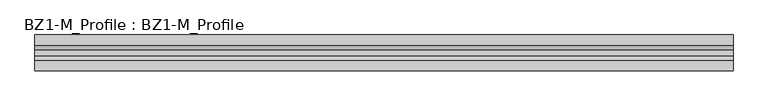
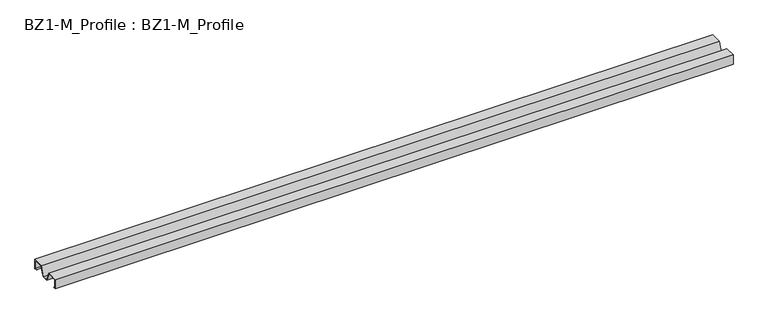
"""IFC4 building model written with IfcOpenShell, lengths in millimetres: beam geometry, BZ1-M_Profile : BZ1-M_Profile."""

import ifcopenshell
import ifcopenshell.guid

model = None  # the IFC model being written
_history = None  # IfcOwnerHistory: only IFC2X3 demands one
_inside = {}  # id of a spatial element -> (the spatial element, [elements in it])
_under = {}  # id of a project, library or spatial element -> (it, [spatial elements below it])
_declared = {}  # id of a project -> (the project, [libraries it declares])
_typed = {}  # id of a type object -> (the type object, [elements of that type])
_made_of = {}  # id of a material, layer set ... -> (it, [elements and type objects made of it])


def new_model(schema):
    """Start an empty IFC model of exactly this schema.

    Asked for "IFC4X3", IfcOpenShell would pick the latest addendum, in which some entities
    have other attributes; the version numbers below select the first issue.
    IFC2X3 requires an IfcOwnerHistory on every rooted entity: one is made here for all.
    """
    global model, _history
    if schema == "IFC4X3":
        model = ifcopenshell.file(schema_version=(4, 3, 0, 0))
    else:
        model = ifcopenshell.file(schema=schema)
    _inside.clear()
    _under.clear()
    _declared.clear()
    _typed.clear()
    _made_of.clear()
    _history = None
    if model.schema == "IFC2X3":
        org = make("IfcOrganization", Name="unknown")
        user = make(
            "IfcPersonAndOrganization",
            ThePerson=make("IfcPerson", FamilyName="unknown"),
            TheOrganization=org,
        )
        app = make(
            "IfcApplication",
            ApplicationDeveloper=org,
            Version="unknown",
            ApplicationFullName="unknown",
            ApplicationIdentifier="unknown",
        )
        _history = make(
            "IfcOwnerHistory",
            OwningUser=user,
            OwningApplication=app,
            ChangeAction="ADDED",
            CreationDate=0,
        )
    return model


def make(cls, **values):
    """One entity of the class cls with the attributes given. An attribute that is None is left unset."""
    return model.create_entity(
        cls, **{name: value for name, value in values.items() if value is not None}
    )


def rooted(cls, **values):
    """An entity with a GlobalId (a new one), such as an element, a storey or a relation."""
    return make(cls, GlobalId=ifcopenshell.guid.new(), OwnerHistory=_history, **values)


def si_unit(unit_type, name, prefix=None):
    """IfcSIUnit, for example si_unit("LENGTHUNIT", "METRE", prefix="MILLI")."""
    return make("IfcSIUnit", UnitType=unit_type, Prefix=prefix, Name=name)


def assignment(units):
    """IfcUnitAssignment: the units of a project."""
    return None if units is None else make("IfcUnitAssignment", Units=units)


def point(xyz):
    """IfcCartesianPoint."""
    return None if xyz is None else make("IfcCartesianPoint", Coordinates=xyz)


def direction(xyz):
    """IfcDirection."""
    return None if xyz is None else make("IfcDirection", DirectionRatios=xyz)


def frame(location, z_axis=None, x_axis=None):
    """IfcAxis2Placement3D, a coordinate frame: its origin and axes. An axis left out is left unset."""
    return make(
        "IfcAxis2Placement3D",
        Location=point(location),
        Axis=direction(z_axis),
        RefDirection=direction(x_axis),
    )


def origin():
    """The frame at (0, 0, 0) with its axes left unset."""
    return frame((0.0, 0.0, 0.0))


def place(relative_to, where):
    """IfcLocalPlacement: puts the frame where relative to a parent placement (None: the world)."""
    return make(
        "IfcLocalPlacement", PlacementRelTo=relative_to, RelativePlacement=where
    )


def context(
    kind, dimensions, precision=None, world=None, true_north=None, identifier=None
):
    """IfcGeometricRepresentationContext, for example the 3D "Model" context."""
    return make(
        "IfcGeometricRepresentationContext",
        ContextIdentifier=identifier,
        ContextType=kind,
        CoordinateSpaceDimension=dimensions,
        Precision=precision,
        WorldCoordinateSystem=world,
        TrueNorth=true_north,
    )


def project(units=None, contexts=None):
    """IfcProject with its units and contexts."""
    return rooted(
        "IfcProject",
        Name="project",
        RepresentationContexts=contexts,
        UnitsInContext=assignment(units),
    )


def spatial(cls, under=None, at=None, **own):
    """A site, building, storey or space (cls), placed at a placement, below another one or the project."""
    s = rooted(cls, ObjectPlacement=at, **own)
    if under is not None:
        _under.setdefault(under.id(), (under, []))[1].append(s)
    return s


def polyline(points):
    """IfcPolyline through the points."""
    return make("IfcPolyline", Points=[point(p) for p in points])


def outline(outer, holes=None, kind="AREA"):
    """IfcArbitraryClosedProfileDef: a profile drawn as a closed curve; with holes, ...WithVoids."""
    if holes is None:
        return make("IfcArbitraryClosedProfileDef", ProfileType=kind, OuterCurve=outer)
    return make(
        "IfcArbitraryProfileDefWithVoids",
        ProfileType=kind,
        OuterCurve=outer,
        InnerCurves=holes,
    )


def extrude(swept, where, along, depth):
    """IfcExtrudedAreaSolid: the profile swept, set in the frame where, extruded along a direction by depth."""
    return make(
        "IfcExtrudedAreaSolid",
        SweptArea=swept,
        Position=where,
        ExtrudedDirection=direction(along),
        Depth=depth,
    )


def shape(context_of_items, identifier, shape_type, items):
    """IfcShapeRepresentation: the items that make up one representation, for example the "Body"."""
    return make(
        "IfcShapeRepresentation",
        ContextOfItems=context_of_items,
        RepresentationIdentifier=identifier,
        RepresentationType=shape_type,
        Items=items,
    )


def source(mapping_origin, context_of_items, identifier, shape_type, items):
    """IfcRepresentationMap: a shape defined once, which mapped items show again and again."""
    return make(
        "IfcRepresentationMap",
        MappingOrigin=mapping_origin,
        MappedRepresentation=shape(context_of_items, identifier, shape_type, items),
    )


def transform(
    local_origin,
    x_axis=None,
    y_axis=None,
    z_axis=None,
    scale=None,
    scale2=None,
    scale3=None,
    uniform=True,
):
    """IfcCartesianTransformationOperator3D, or its non-uniform kind. x_axis, y_axis, z_axis: its Axis1, 2, 3."""
    if uniform:
        return make(
            "IfcCartesianTransformationOperator3D",
            Axis1=direction(x_axis),
            Axis2=direction(y_axis),
            LocalOrigin=point(local_origin),
            Scale=scale,
            Axis3=direction(z_axis),
        )
    return make(
        "IfcCartesianTransformationOperator3DnonUniform",
        Axis1=direction(x_axis),
        Axis2=direction(y_axis),
        LocalOrigin=point(local_origin),
        Scale=scale,
        Axis3=direction(z_axis),
        Scale2=scale2,
        Scale3=scale3,
    )


def mapped(mapping_source, mapping_target):
    """IfcMappedItem: shows the shape of a source again, moved by a transform."""
    return make(
        "IfcMappedItem", MappingSource=mapping_source, MappingTarget=mapping_target
    )


def made_of(thing, what):
    """Note that an element or type object is made of a material, layer set ...; save() writes the relation."""
    if what is not None:
        _made_of.setdefault(what.id(), (what, []))[1].append(thing)
    return thing


def element(
    cls,
    number,
    at=None,
    inside=None,
    cuts=None,
    type_object=None,
    material=None,
    context=None,
    identifier="Body",
    shape_type=None,
    held_by="IfcProductDefinitionShape",
    body=None,
    shapes=None,
    **own,
):
    """One element of the class cls, such as IfcWall. Its Tag is "e" and its number.

    at: its placement. inside: the storey or other place that contains it. cuts: it is an
    opening in that element (IfcRelVoidsElement). A single representation is given by context,
    identifier, shape_type and body (its items); several are given by shapes. held_by: the class
    of the entity that holds the representations. save() writes the other relations.
    """
    e = rooted(cls, Tag="e%d" % number, ObjectPlacement=at, **own)
    if body is not None:
        shapes = [shape(context, identifier, shape_type, body)]
    if shapes is not None:
        e.Representation = make(held_by, Representations=shapes)
    if inside is not None:
        _inside.setdefault(inside.id(), (inside, []))[1].append(e)
    if cuts is not None:
        rooted(
            "IfcRelVoidsElement", RelatingBuildingElement=cuts, RelatedOpeningElement=e
        )
    if type_object is not None:
        _typed.setdefault(type_object.id(), (type_object, []))[1].append(e)
    return made_of(e, material)


def aggregate(whole, parts):
    """IfcRelAggregates: a whole, such as a stair, and the parts it consists of."""
    return rooted("IfcRelAggregates", RelatingObject=whole, RelatedObjects=parts)


def save(model, path):
    """Write the relations noted so far, then the file.

    IfcRelAggregates (storeys below a building ...), IfcRelContainedInSpatialStructure (elements
    in a storey), IfcRelDefinesByType, IfcRelAssociatesMaterial and IfcRelDeclares: one each for
    every whole, place, type object, material and project.
    """
    for whole, parts in _under.values():
        aggregate(whole, parts)
    for where, things in _inside.values():
        rooted(
            "IfcRelContainedInSpatialStructure",
            RelatedElements=things,
            RelatingStructure=where,
        )
    for kind, things in _typed.values():
        rooted("IfcRelDefinesByType", RelatedObjects=things, RelatingType=kind)
    for what, things in _made_of.values():
        rooted("IfcRelAssociatesMaterial", RelatedObjects=things, RelatingMaterial=what)
    for by, libraries in _declared.values():
        rooted("IfcRelDeclares", RelatingContext=by, RelatedDefinitions=libraries)
    model.write(path)


def bz1_m_profile_bz1_m_profile_67f64d1a(model_context):
    return source(origin(), model_context, "Body", "SweptSolid", [
        extrude(outline(polyline([(45.0, 25.0), (45.0, 0.0), (39.0, 0.0), (39.0, 1.0), (44.0, 1.0), (44.0, 24.0), (18.3051526, 24.0), (8.117757, 0.0), (-8.117757, 0.0), (-18.3051526, 24.0), (-44.0, 24.0), (-44.0, 1.0), (-39.0, 1.0), (-39.0, 0.0), (-45.0, 0.0), (-45.0, 25.0), (-17.643267, 25.0), (-7.4558714, 1.0), (7.4558714, 1.0), (17.643267, 25.0), (45.0, 25.0)])), frame((-871.0, 0.0, 0.0), z_axis=(1.0, 0.0, 0.0), x_axis=(0.0, 1.0, 0.0)), (0.0, 0.0, 1.0), 1742.0),
    ])


if __name__ == "__main__":
    model = new_model("IFC4")
    model_context = context("Model", 3, world=origin())
    ifc_project = project(units=[si_unit("LENGTHUNIT", "METRE", prefix="MILLI")], contexts=[model_context])
    site = spatial("IfcSite", under=ifc_project)
    building = spatial("IfcBuilding", under=site)
    placement = place(None, origin())
    bz1_m_profile_bz1_m_profile_shape = bz1_m_profile_bz1_m_profile_67f64d1a(model_context)
    element("IfcBeam", 1, ObjectType="BZ1-M_Profile : BZ1-M_Profile", at=placement, inside=building, context=model_context, shape_type="MappedRepresentation", body=[
        mapped(bz1_m_profile_bz1_m_profile_shape, transform((0.0, 0.0, 0.0), x_axis=(1.0, 0.0, 0.0), y_axis=(0.0, 1.0, 0.0), z_axis=(0.0, 0.0, 1.0))),
    ])
    save(model, "model.ifc")
